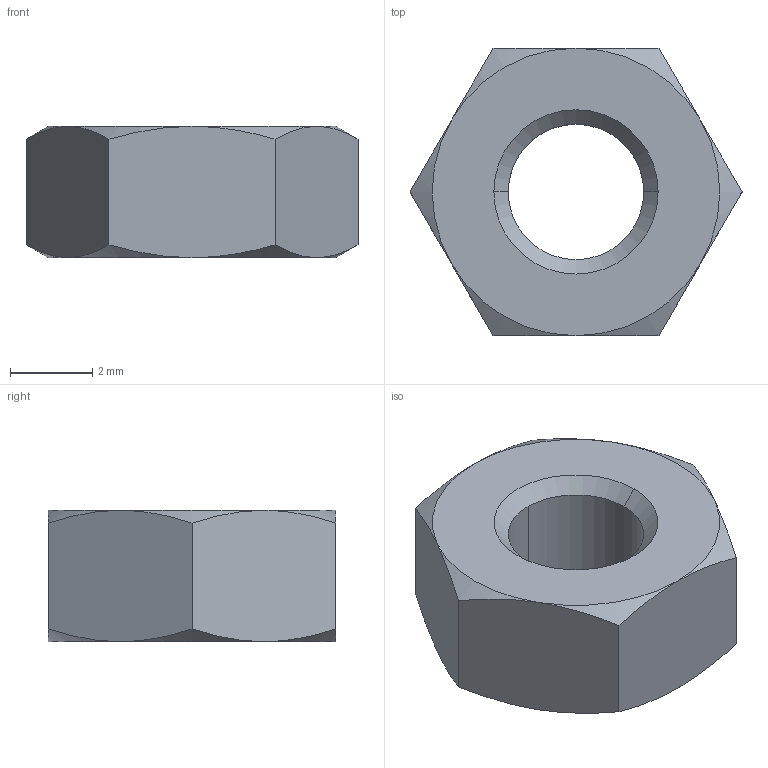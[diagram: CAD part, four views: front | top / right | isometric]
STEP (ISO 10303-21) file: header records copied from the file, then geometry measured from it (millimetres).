
FILE_DESCRIPTION((''),'2;1');
FILE_NAME('HEX_NUT_M4','2025-07-20T23:21:07',('tilla'),(''),'CREO PARAMETRIC BY PTC INC, 2024063','CREO PARAMETRIC BY PTC INC, 2024063','');
FILE_SCHEMA(('CONFIG_CONTROL_DESIGN'));
Length unit declared in the file: millimetre
Products named in the file (1): HEX_NUT_M4
Bounding box: 8.08 x 7 x 3.2 mm (x, y, z)
Volume: 106.3 mm3; surface area: 210.8 mm2
Topology: 1 solids, 2 shells, 28 faces, 66 edges, 40 vertices
Faces by surface type: cone 16, plane 8, cylinder 4
Entity records: 886 total; most frequent: CARTESIAN_POINT 219, DIRECTION 128, ORIENTED_EDGE 128, EDGE_CURVE 66, AXIS2_PLACEMENT_3D 57, VERTEX_POINT 40, EDGE_LOOP 30, FACE_OUTER_BOUND 28
